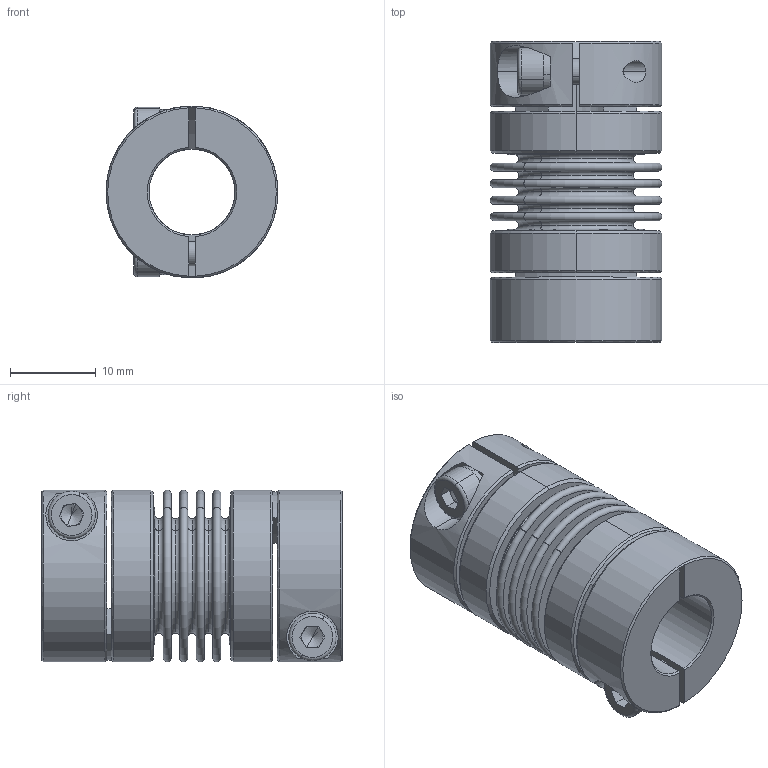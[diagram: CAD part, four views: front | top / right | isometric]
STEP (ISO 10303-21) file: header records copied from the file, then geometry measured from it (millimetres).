
FILE_DESCRIPTION (( 'STEP AP203' ), '1' );
FILE_NAME ('LB-B-D20L34-10-10.STEP', '2021-11-04T01:47:19', ( '' ), ( '' ), 'SwSTEP 2.0', 'SolidWorks 2018', '' );
FILE_SCHEMA (( 'CONFIG_CONTROL_DESIGN' ));
Length unit declared in the file: millimetre
Products named in the file (2): 零件4^LB-B-D20L34 波纹管联轴器-组装体; LB-B-D20L34-10-10
Assembly tree (1 placements, depth 2):
  LB-B-D20L34-10-10
    零件4^LB-B-D20L34 波纹管联轴器-组装体
Bounding box: 20 x 35 x 20 mm (x, y, z)
Volume: 5116.9 mm3; surface area: 9360.7 mm2
Topology: 1 solids, 1 shells, 246 faces, 566 edges, 350 vertices
Faces by surface type: plane 84, torus 68, cylinder 60, cone 34
Entity records: 7446 total; most frequent: CARTESIAN_POINT 1462, DIRECTION 1370, ORIENTED_EDGE 1124, AXIS2_PLACEMENT_3D 602, EDGE_CURVE 562, CIRCLE 352, VERTEX_POINT 350, EDGE_LOOP 288
